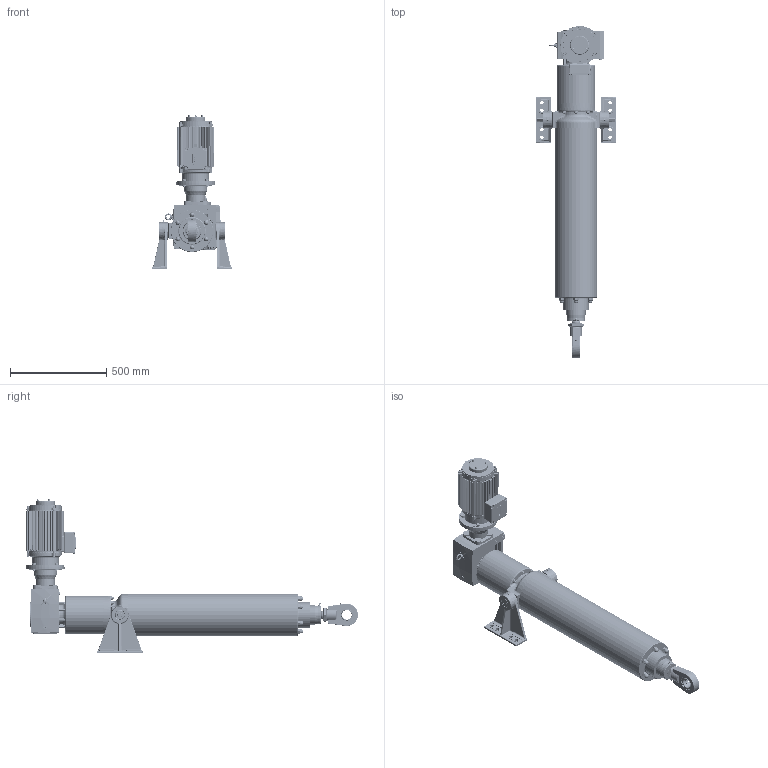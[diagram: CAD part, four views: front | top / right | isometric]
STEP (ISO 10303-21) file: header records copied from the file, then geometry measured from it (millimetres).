
FILE_DESCRIPTION( ( '153-599-4' ), '1' );
FILE_NAME( 'C:/daten/bearbeitung katalogbilder/RBs rendern/austausch pomplun/mit identnr/T1T8-0600-160-223-3.stp', 'Unknown', ( 'Christoph Hahmann' ), ( 'RACO-ELEKTRO-MASCHINEN GmbH' ), 'PSStep 17.0.49', 'Solid Edge ST 7', ' ' );
FILE_SCHEMA( ( 'AUTOMOTIVE_DESIGN { 1 0 10303 214 1 1 1 1 }' ) );
Length unit declared in the file: millimetre
Products named in the file (13): Assem1; 03.01-08 kpl; 02.14-08-0600; 01.15-08-0600 NEU; 02.01-08 kpl; BGR 8; 01.74-08 156-849-3; M6-101-525-7 ; 01.01-08 Gelenkkopf 141-544-1; 04.40-08-Ø200-111-922-2; 03.65-08 2 Füße; Schnecke EZ8; 04.01-08-0170 ohne GZ
Assembly tree (12 placements, depth 2):
  Assem1
    03.01-08 kpl
    02.14-08-0600
    01.15-08-0600 NEU
    02.01-08 kpl
    BGR 8
    01.74-08 156-849-3
    M6-101-525-7 
    01.01-08 Gelenkkopf 141-544-1
    04.40-08-Ø200-111-922-2
    03.65-08 2 Füße
    Schnecke EZ8
    04.01-08-0170 ohne GZ
Bounding box: 415 x 1725.91 x 804.5 mm (x, y, z)
Surface area: 3219221.6 mm2 (no closed solid volume)
Topology: 0 solids, 6622 shells, 6622 faces, 34044 edges, 33075 vertices
Faces by surface type: plane 3551, cylinder 1420, cone 529, bspline 420, torus 334, sphere 221, extrusion 147
Full cylindrical faces by diameter (mm): 1.6 x2, 2 x7, 2.459 x12, 3 x10, 3.242 x16, 4 x3, 4.02 x4, 4.134 x22, 4.917 x5, 5 x8, 5.3 x3, 5.4 x4, 5.5 x4, 5.7 x3, 6 x3, 6.466 x6, 6.647 x8, 6.917 x2, 7.33 x1, 7.5 x3, 7.99 x7, 8 x24, 8.15 x1, 8.2 x1, 8.376 x6, 8.4 x2, 8.566 x2, 8.9 x4, 9 x10, 9.15 x3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
Entity records: 467804 total; most frequent: CARTESIAN_POINT 167289, DIRECTION 53373, VERTEX_POINT 32675, ORIENTED_EDGE 32598, EDGE_CURVE 32598, AXIS2_PLACEMENT_3D 18527, VECTOR 16319, LINE 16172
